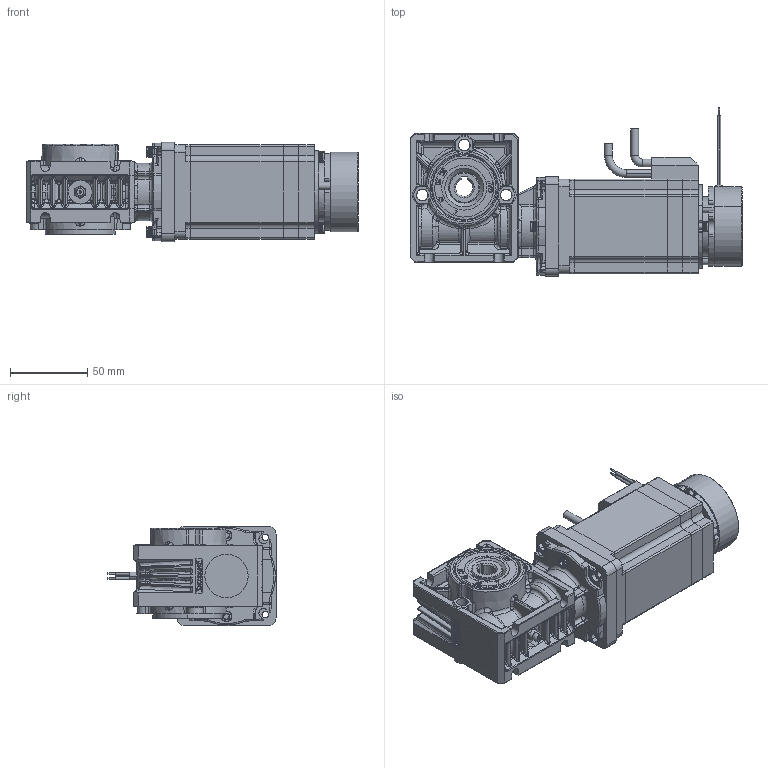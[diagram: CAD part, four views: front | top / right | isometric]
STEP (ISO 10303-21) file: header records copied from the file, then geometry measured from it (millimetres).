
FILE_DESCRIPTION (( 'STEP AP214' ), '1' );
FILE_NAME ('PBL60-50-GB28 - Brake.STEP', '2024-09-14T13:09:58', ( '' ), ( '' ), 'SwSTEP 2.0', 'SolidWorks 2023', '' );
FILE_SCHEMA (( 'AUTOMOTIVE_DESIGN' ));
Length unit declared in the file: millimetre
Products named in the file (1): PBL60-50-GB28 - Brake
Bounding box: 214.24 x 108.5 x 64 mm (x, y, z)
Volume: 587352.3 mm3; surface area: 159352.9 mm2
Topology: 26 solids, 26 shells, 4610 faces, 12015 edges, 7558 vertices
Faces by surface type: cylinder 1888, plane 1344, bspline 958, torus 155, cone 145, sphere 120
Entity records: 247003 total; most frequent: CARTESIAN_POINT 90653, ORIENTED_EDGE 23764, DIRECTION 19655, EDGE_CURVE 11882, VERTEX_POINT 7549, AXIS2_PLACEMENT_3D 7204, VECTOR 5247, LINE 5247
